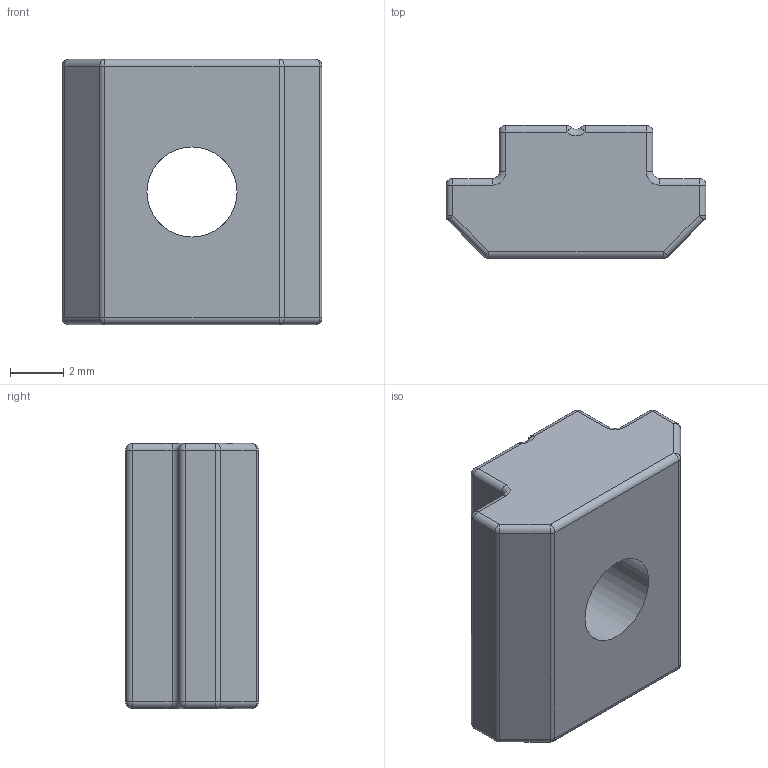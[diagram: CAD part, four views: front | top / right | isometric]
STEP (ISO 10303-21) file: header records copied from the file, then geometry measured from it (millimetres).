
FILE_DESCRIPTION (( 'STEP AP203' ), '1' );
FILE_NAME ('5270.STEP', '2016-04-22T09:20:56', ( '' ), ( '' ), 'SwSTEP 2.0', 'SolidWorks 2014', '' );
FILE_SCHEMA (( 'CONFIG_CONTROL_DESIGN' ));
Length unit declared in the file: millimetre
Products named in the file (1): 5270
Bounding box: 9.8 x 5 x 10 mm (x, y, z)
Volume: 340.7 mm3; surface area: 378.7 mm2
Topology: 1 solids, 1 shells, 79 faces, 182 edges, 88 vertices
Faces by surface type: cylinder 40, sphere 20, plane 13, torus 6
Entity records: 2153 total; most frequent: DIRECTION 406, CARTESIAN_POINT 356, ORIENTED_EDGE 332, EDGE_CURVE 166, AXIS2_PLACEMENT_3D 166, VERTEX_POINT 88, CIRCLE 86, EDGE_LOOP 80
